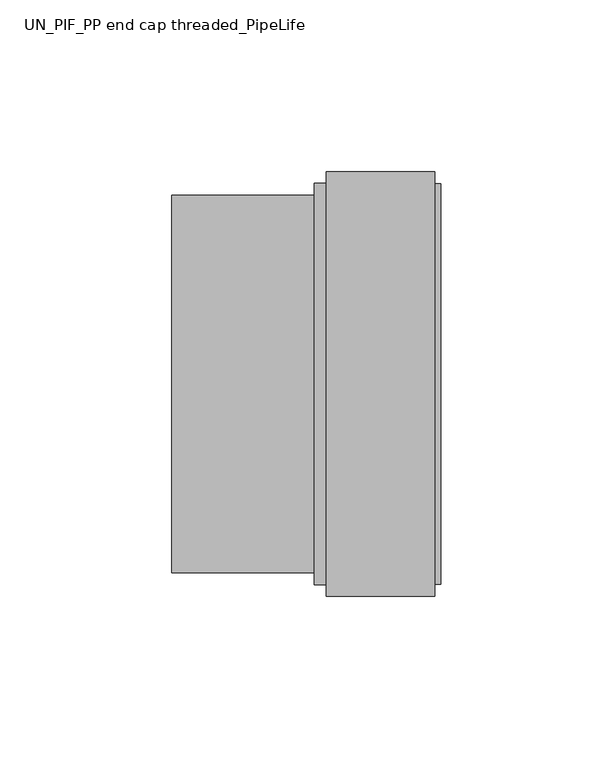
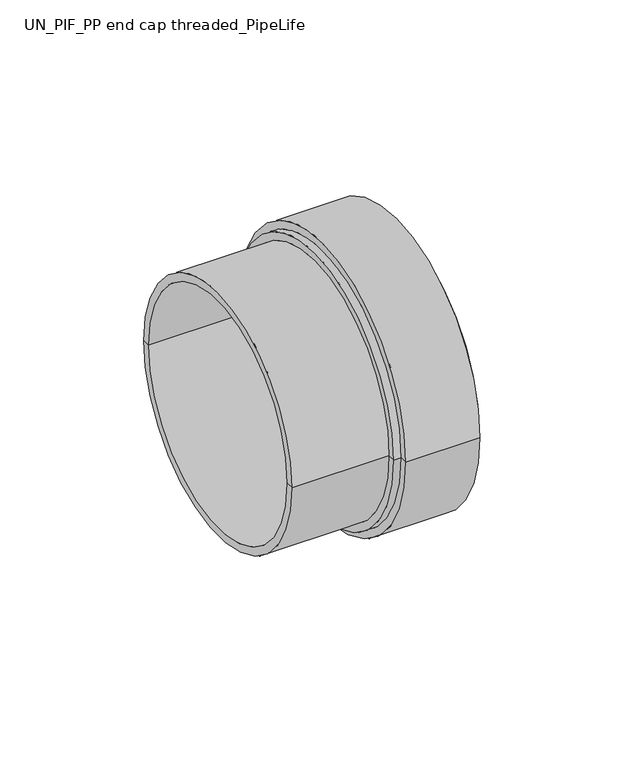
"""IFC4 building model written with IfcOpenShell, lengths in millimetres: pipe fitting geometry, UN_PIF_PP end cap threaded_PipeLife : Black, ø110."""

from ifc_helpers import new_model, si_unit, frame, origin, place, context, project, spatial, polyline, circle_curve, source, transform, mapped, element, save
from ifc_brep_helpers import plane_surface, cylinder_surface, revolved_surface, advanced_brep


def un_pif_pp_end_cap_threaded_pipelife_dda9cf07(model_context):
    return source(origin(), model_context, "Body", "AdvancedBrep", [
        advanced_brep(
        [(-74.9, -55.0, 0.0), (-74.9, 55.0, 0.0), (-33.4, 55.0, 0.0), (-33.4, -55.0, 0.0), (-74.9, -51.6, 0.0), (-74.9, 51.6, 0.0), (0.0, -51.6, 0.0), (0.0, 51.6, 0.0), (0.0, 0.0, 0.0), (3.4, -58.35, 0.0), (3.4, 58.35, 0.0), (3.4, 0.0, 0.0), (-30.0, -61.75, 0.0), (-30.0, 61.75, 0.0), (1.6728436, 61.75, 0.0), (1.6728436, -61.75, 0.0), (-30.0, -58.4, 0.0), (-30.0, 58.4, 0.0), (-33.4, -58.4, 0.0), (-33.4, 58.4, 0.0), (1.6728436, -58.35, 0.0), (1.6728436, 58.35, 0.0)],
        [
            (0, 1, circle_curve(frame((-74.9, 0.0, 0.0), z_axis=(1.0, 0.0, 0.0), x_axis=(0.0, 1.0, 0.0)), 55.0)),
            (1, 2),
            (2, 3, circle_curve(frame((-33.4, 0.0, 0.0), z_axis=(-1.0, 0.0, 0.0), x_axis=(0.0, 1.0, 0.0)), 55.0)),
            (3, 0),
            (1, 0, circle_curve(frame((-74.9, 0.0, 0.0), z_axis=(1.0, 0.0, 0.0), x_axis=(0.0, 1.0, 0.0)), 55.0)),
            (3, 2, circle_curve(frame((-33.4, 0.0, 0.0), z_axis=(-1.0, 0.0, 0.0), x_axis=(0.0, 1.0, 0.0)), 55.0)),
            (4, 5, circle_curve(frame((-74.9, 0.0, 0.0), z_axis=(1.0, 0.0, 0.0), x_axis=(0.0, 1.0, 0.0)), 51.6)),
            (5, 1),
            (0, 4),
            (5, 4, circle_curve(frame((-74.9, 0.0, 0.0), z_axis=(1.0, 0.0, 0.0), x_axis=(0.0, 1.0, 0.0)), 51.6)),
            (6, 7, circle_curve(frame((0.0, 0.0, 0.0), z_axis=(1.0, 0.0, 0.0), x_axis=(0.0, 1.0, 0.0)), 51.6)),
            (7, 5),
            (4, 6),
            (7, 6, circle_curve(frame((0.0, 0.0, 0.0), z_axis=(1.0, 0.0, 0.0), x_axis=(0.0, 1.0, 0.0)), 51.6)),
            (8, 7),
            (6, 8),
            (9, 10, circle_curve(frame((3.4, 0.0, 0.0), z_axis=(1.0, 0.0, 0.0), x_axis=(0.0, 1.0, 0.0)), 58.35)),
            (10, 11),
            (11, 9),
            (10, 9, circle_curve(frame((3.4, 0.0, 0.0), z_axis=(1.0, 0.0, 0.0), x_axis=(0.0, 1.0, 0.0)), 58.35)),
            (12, 13, circle_curve(frame((-30.0, 0.0, 0.0), z_axis=(1.0, 0.0, 0.0), x_axis=(0.0, 1.0, 0.0)), 61.75)),
            (13, 14),
            (14, 15, circle_curve(frame((1.6728436, 0.0, 0.0), z_axis=(-1.0, 0.0, 0.0), x_axis=(0.0, 1.0, 0.0)), 61.75)),
            (15, 12),
            (13, 12, circle_curve(frame((-30.0, 0.0, 0.0), z_axis=(1.0, 0.0, 0.0), x_axis=(0.0, 1.0, 0.0)), 61.75)),
            (15, 14, circle_curve(frame((1.6728436, 0.0, 0.0), z_axis=(-1.0, 0.0, 0.0), x_axis=(0.0, 1.0, 0.0)), 61.75)),
            (16, 17, circle_curve(frame((-30.0, 0.0, 0.0), z_axis=(1.0, 0.0, 0.0), x_axis=(0.0, 1.0, 0.0)), 58.4)),
            (17, 13),
            (12, 16),
            (17, 16, circle_curve(frame((-30.0, 0.0, 0.0), z_axis=(1.0, 0.0, 0.0), x_axis=(0.0, 1.0, 0.0)), 58.4)),
            (18, 19, circle_curve(frame((-33.4, 0.0, 0.0), z_axis=(1.0, 0.0, 0.0), x_axis=(0.0, 1.0, 0.0)), 58.4)),
            (19, 17),
            (16, 18),
            (19, 18, circle_curve(frame((-33.4, 0.0, 0.0), z_axis=(1.0, 0.0, 0.0), x_axis=(0.0, 1.0, 0.0)), 58.4)),
            (2, 19),
            (18, 3),
            (20, 21, circle_curve(frame((1.6728436, 0.0, 0.0), z_axis=(1.0, 0.0, 0.0), x_axis=(0.0, 1.0, 0.0)), 58.35)),
            (21, 10),
            (9, 20),
            (21, 20, circle_curve(frame((1.6728436, 0.0, 0.0), z_axis=(1.0, 0.0, 0.0), x_axis=(0.0, 1.0, 0.0)), 58.35)),
            (14, 21),
            (20, 15),
        ],
        [
            cylinder_surface(frame((3.4, 0.0, 0.0), z_axis=(-1.0, 0.0, 0.0), x_axis=(0.0, 1.0, 0.0)), 55.0),
            plane_surface(frame((-74.9, 0.0, 0.0), z_axis=(-1.0, 0.0, 0.0), x_axis=(0.0, 1.0, 0.0))),
            revolved_surface(polyline([(-74.9, 51.6, 0.0), (0.0, 51.6, 0.0)]), (3.4, 0.0, 0.0), (-1.0, 0.0, 0.0)),
            plane_surface(frame((0.0, 0.0, 0.0), z_axis=(-1.0, 0.0, 0.0), x_axis=(0.0, 1.0, 0.0))),
            plane_surface(frame((3.4, 0.0, 0.0), z_axis=(1.0, 0.0, 0.0), x_axis=(0.0, 1.0, 0.0))),
            cylinder_surface(frame((3.4, 0.0, 0.0), z_axis=(-1.0, 0.0, 0.0), x_axis=(0.0, 1.0, 0.0)), 61.75),
            plane_surface(frame((-30.0, 0.0, 0.0), z_axis=(-1.0, 0.0, 0.0), x_axis=(0.0, 1.0, 0.0))),
            cylinder_surface(frame((3.4, 0.0, 0.0), z_axis=(-1.0, 0.0, 0.0), x_axis=(0.0, 1.0, 0.0)), 58.4),
            plane_surface(frame((-33.4, 0.0, 0.0), z_axis=(-1.0, 0.0, 0.0), x_axis=(0.0, 1.0, 0.0))),
            cylinder_surface(frame((3.4, 0.0, 0.0), z_axis=(-1.0, 0.0, 0.0), x_axis=(0.0, 1.0, 0.0)), 58.35),
            plane_surface(frame((1.6728436, 0.0, 0.0), z_axis=(1.0, 0.0, 0.0), x_axis=(0.0, 1.0, 0.0))),
        ],
        [
            (0, [[1, 2, 3, 4]]),
            (0, [[5, -4, 6, -2]]),
            (1, [[7, 8, -1, 9]]),
            (1, [[10, -9, -5, -8]]),
            (2, [[11, 12, -7, 13]]),
            (2, [[14, -13, -10, -12]]),
            (3, [[15, -11, 16]]),
            (3, [[-16, -14, -15]]),
            (4, [[17, 18, 19]]),
            (4, [[20, -19, -18]]),
            (5, [[21, 22, 23, 24]]),
            (5, [[25, -24, 26, -22]]),
            (6, [[27, 28, -21, 29]]),
            (6, [[30, -29, -25, -28]]),
            (7, [[31, 32, -27, 33]]),
            (7, [[34, -33, -30, -32]]),
            (8, [[-3, 35, -31, 36]]),
            (8, [[-6, -36, -34, -35]]),
            (9, [[37, 38, -17, 39]]),
            (9, [[40, -39, -20, -38]]),
            (10, [[-23, 41, -37, 42]]),
            (10, [[-26, -42, -40, -41]]),
        ],
    ),
    ])


if __name__ == "__main__":
    model = new_model("IFC4")
    model_context = context("Model", 3, world=origin())
    ifc_project = project(units=[si_unit("LENGTHUNIT", "METRE", prefix="MILLI")], contexts=[model_context])
    site = spatial("IfcSite", under=ifc_project)
    building = spatial("IfcBuilding", under=site)
    placement = place(None, origin())
    un_pif_pp_end_cap_threaded_pipelife_shape = un_pif_pp_end_cap_threaded_pipelife_dda9cf07(model_context)
    element("IfcPipeFitting", 1, ObjectType="UN_PIF_PP end cap threaded_PipeLife : Black, ø110", at=placement, inside=building, context=model_context, shape_type="MappedRepresentation", body=[
        mapped(un_pif_pp_end_cap_threaded_pipelife_shape, transform((0.0, 0.0, 0.0), x_axis=(1.0, 0.0, 0.0), y_axis=(0.0, 1.0, 0.0), z_axis=(0.0, 0.0, 1.0))),
    ])
    save(model, "model.ifc")
